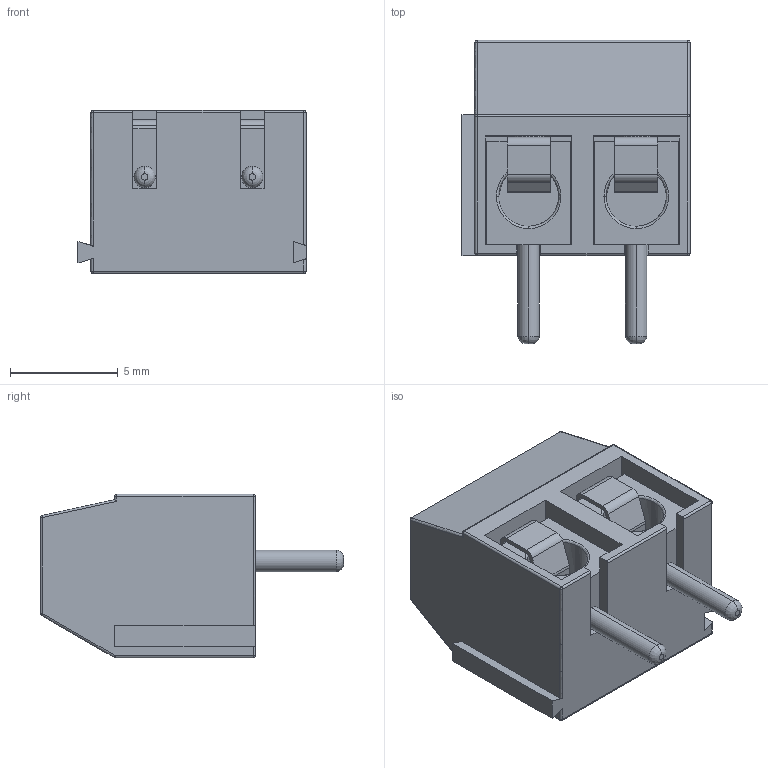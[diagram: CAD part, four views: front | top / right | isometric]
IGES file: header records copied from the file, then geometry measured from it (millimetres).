
Start section:  PTC IGES file: tb5p-2p_p5_l10_w7-6_h10.igs
Global section: file name: tb5p-2p_p5_l10_w7-6_h10.igs; native system: Pro/ENGINEER by Parametric Technology Corporation; preprocessor: 2004440; author: Dragos; organization: Unknown; date: 191124.095810; units: millimetre
Bounding box: 10.6 x 14.1 x 7.6 mm (x, y, z)
Volume: 554.4 mm3; surface area: 1143.1 mm2
Topology: 1 solids, 1 shells, 214 faces, 523 edges, 332 vertices
Faces by surface type: revolution 116, bspline 98
